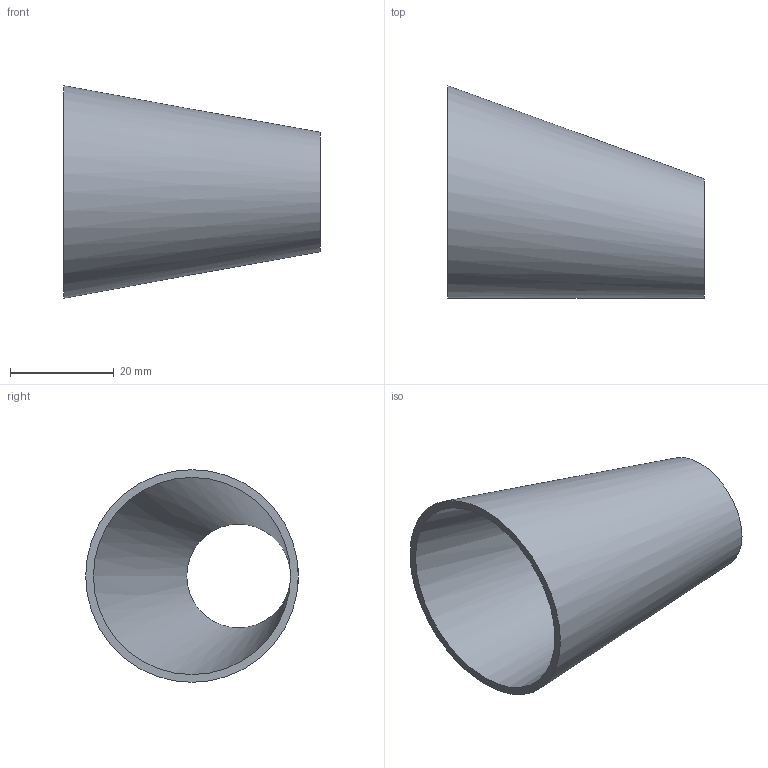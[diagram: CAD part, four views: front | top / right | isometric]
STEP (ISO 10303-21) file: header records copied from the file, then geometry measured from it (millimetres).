
FILE_DESCRIPTION(('FreeCAD Model'),'2;1');
FILE_NAME( '/home/martin/Documents/proyect/accesorios/stp/red-exc_DN40-20.step', '2017-12-31T13:03:01',('Author'),(''), 'Open CASCADE STEP processor 6.8','FreeCAD','Unknown');
FILE_SCHEMA(('AUTOMOTIVE_DESIGN_CC2 { 1 2 10303 214 -1 1 5 4 }'));
Length unit declared in the file: millimetre
Products named in the file (1): red-exc_DN40-20
Bounding box: 49.5 x 41 x 41 mm (x, y, z)
Volume: 7114.5 mm3; surface area: 10003.3 mm2
Topology: 1 solids, 1 shells, 4 faces, 6 edges, 4 vertices
Faces by surface type: bspline 2, plane 2
Entity records: 247 total; most frequent: CARTESIAN_POINT 87, DIRECTION 26, ORIENTED_EDGE 12, PCURVE 12, DEFINITIONAL_REPRESENTATION 12, CIRCLE 8, LINE 8, VECTOR 8
